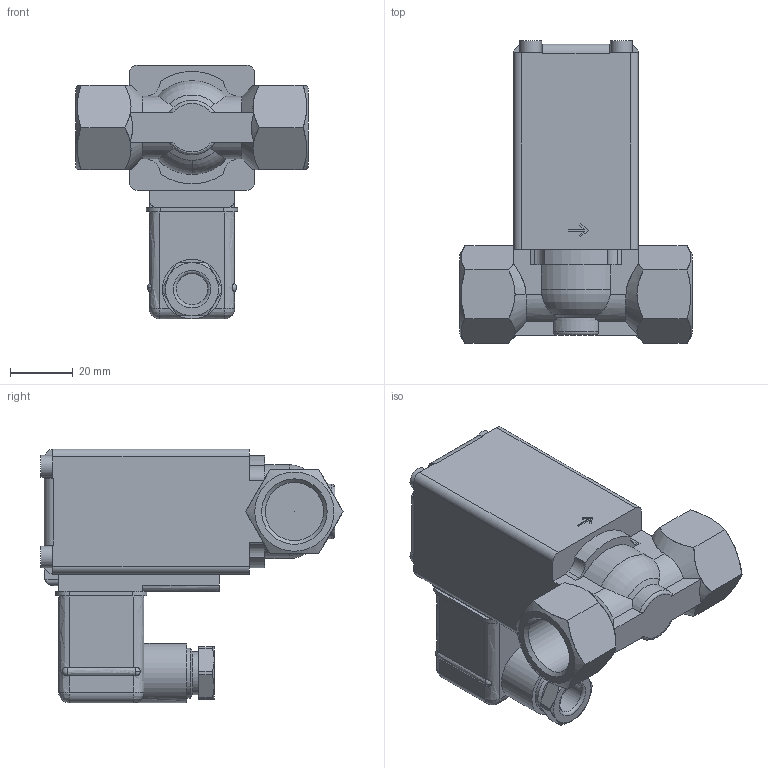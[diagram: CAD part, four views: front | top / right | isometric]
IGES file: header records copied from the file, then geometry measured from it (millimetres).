
Start section: Data from Parasolid IGES Translator 26.0.171, Copyright(c) 2006 Siemens PLM Software. All Rights Reserved.
Global section: file name: 0256-145802-2_2-way_Solenoid_Valve.igs; native system: By Siemens PLM Incorporated; preprocessor: XPlus GENERIC/IGES 26.0.171; author: Noname; organization: Noname; date: 20240805.172155; units: millimetre
Bounding box: 74.5 x 96.69 x 81.2 mm (x, y, z)
Surface area: 28706.5 mm2 (no closed solid volume)
Topology: 0 solids, 0 shells, 246 faces, 1370 edges, 1348 vertices
Faces by surface type: extrusion 137, revolution 109
